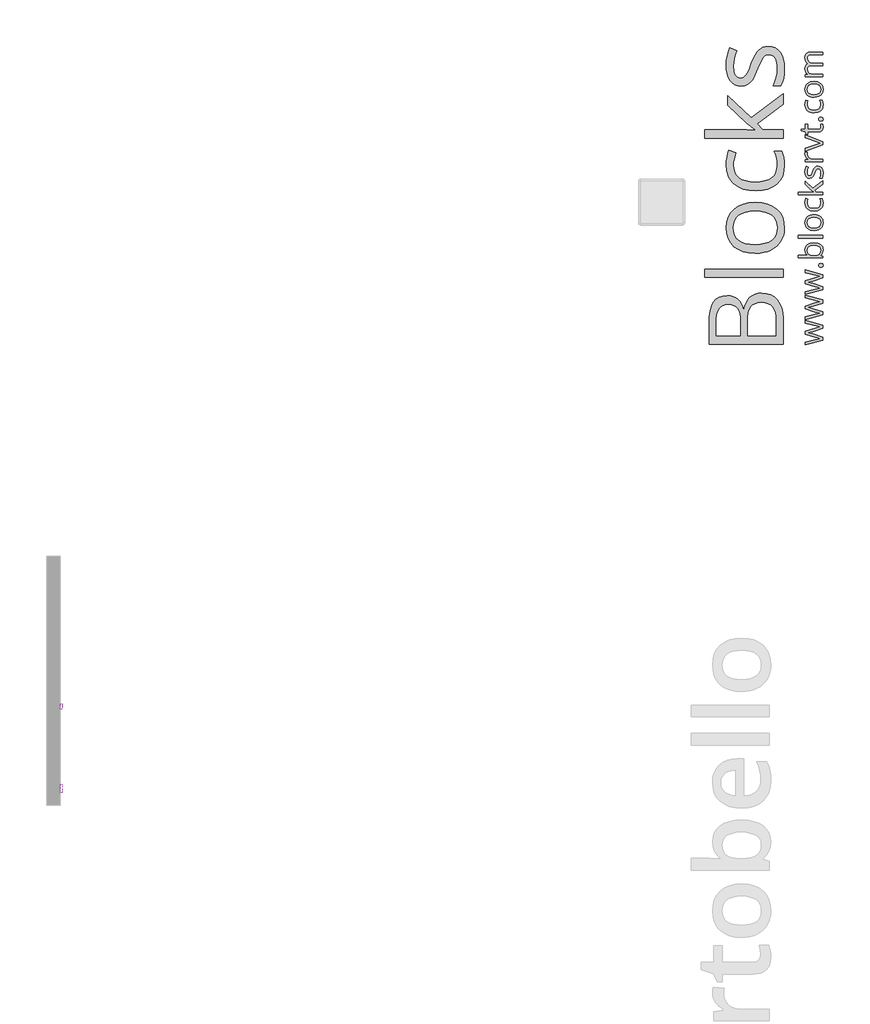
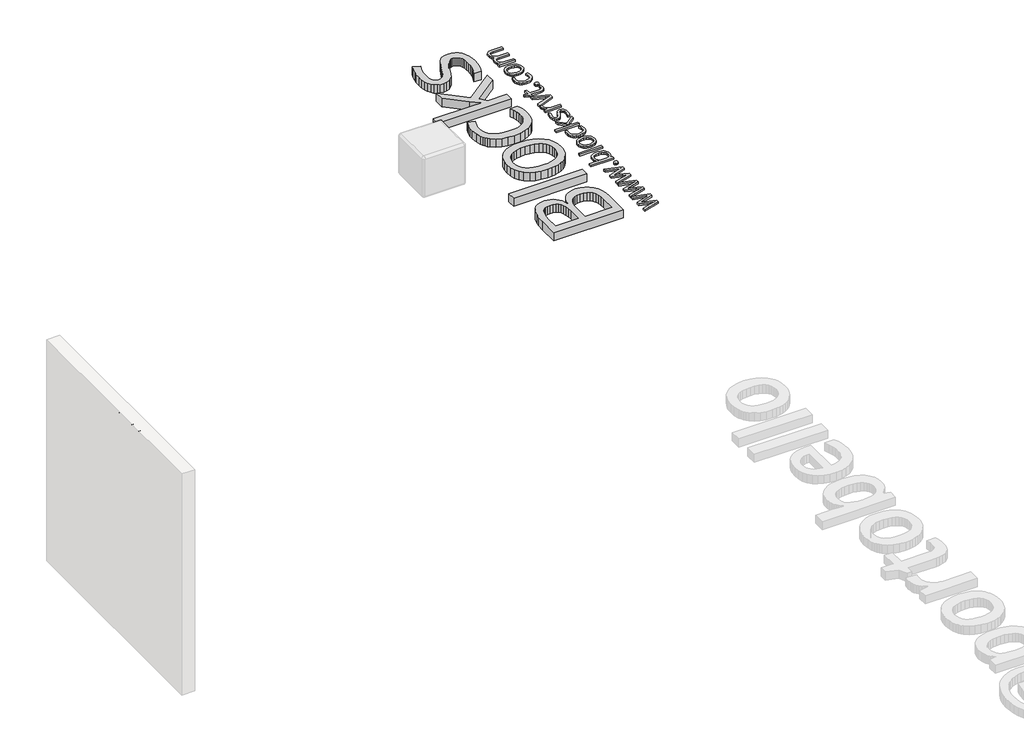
# One storey, part 3 of 3: 4 proxies.
"""IFC4 building model written with IfcOpenShell, lengths in millimetres."""

from ifc_helpers import new_model, si_unit, frame, origin, origin_with_axes, place, context, project, spatial, polyline, outline, extrude, element, save

model = new_model("IFC4")

# Units and contexts
model_context = context("Model", 3, world=origin())
ifc_project = project(units=[si_unit("LENGTHUNIT", "METRE", prefix="MILLI")], contexts=[model_context])

# Site, building, storey
site = spatial("IfcSite", under=ifc_project)
building = spatial("IfcBuilding", under=site)
storey = spatial("IfcBuildingStorey", under=building, Name="PORTOBELLO - SHOWROOM", Elevation=0.0)

# Proxies
placement = place(None, origin())
element("IfcBuildingElementProxy", 1, Name="10mm Arial", ObjectType="10mm Arial", at=placement, inside=storey, context=model_context, shape_type="SweptSolid", body=[
    extrude(outline(polyline([(16374.0658223, 2478.2261649), (16334.0893122, 2578.6824751), (16347.5292677, 2578.6824751), (16374.2865515, 2506.3078239), (16379.7066796, 2489.9983888), (16385.0532312, 2506.3078239), (16411.8840914, 2578.6824751), (16425.324047, 2578.6824751), (16387.039794, 2478.2261649), (16374.0658223, 2478.2261649)])), frame((-18795.5594677, 0.0, 0.0), z_axis=(1.0, 0.0, 0.0), x_axis=(0.0, 1.0, 0.0)), (0.0, 0.0, 1.0), 20.0),
    extrude(outline(polyline([(16487.0791712, 2500.2009828), (16499.3909553, 2498.6313529), (16494.9549116, 2489.3545953), (16487.8762489, 2482.4200197), (16478.3143827, 2478.0974062), (16466.4287286, 2476.6565351), (16451.6950547, 2479.1428042), (16440.3581579, 2486.6016117), (16433.1292766, 2498.5485795), (16430.7196496, 2514.4993297), (16433.1538021, 2530.9865744), (16440.4562597, 2543.3167526), (16451.6398724, 2551.0054863), (16465.7174901, 2553.5683975), (16479.356715, 2551.0116177), (16490.2552191, 2543.3412781), (16497.4013269, 2531.0356253), (16499.7833628, 2514.5729061), (16499.7097864, 2511.1883917), (16443.2766883, 2511.1883917), (16445.4502578, 2501.7890067), (16450.4994382, 2494.8789566), (16457.7865674, 2490.6299195), (16466.6739832, 2489.2135739), (16478.9857673, 2491.8377988), (16487.0791712, 2500.2009828)]), holes=[polyline([(16443.2766883, 2523.7454305), (16487.226324, 2523.7454305), (16482.1986034, 2535.1252469), (16474.8777517, 2539.5398308), (16465.6684391, 2541.0113588), (16450.2051326, 2536.314732), (16445.3398932, 2530.8240932), (16443.2766883, 2523.7454305)])]), frame((-18795.5594677, 0.0, 0.0), z_axis=(1.0, 0.0, 0.0), x_axis=(0.0, 1.0, 0.0)), (0.0, 0.0, 1.0), 20.0),
    extrude(outline(polyline([(16557.8596671, 2478.2261649), (16557.8596671, 2490.0719652), (16549.5516654, 2480.0103926), (16538.0676158, 2476.6565351), (16522.5184701, 2481.5125774), (16511.5310612, 2495.0628976), (16507.631512, 2515.0388899), (16511.2244929, 2535.027145), (16521.9911726, 2548.7859316), (16538.0185648, 2553.5683975), (16549.594585, 2550.147095), (16557.8596671, 2541.2566134), (16557.8596671, 2578.6824751), (16570.4167059, 2578.6824751), (16570.4167059, 2478.2261649), (16557.8596671, 2478.2261649)]), holes=[polyline([(16520.1885508, 2515.0879408), (16521.6048965, 2503.7295842), (16525.8539335, 2495.6515088), (16532.0282197, 2490.8230576), (16539.2203127, 2489.2135739), (16546.40934, 2490.7494812), (16552.4272763, 2495.3572032), (16556.5015694, 2503.122579), (16557.8596671, 2514.1314477), (16556.4770439, 2526.1673203), (16552.3291745, 2534.5121102), (16546.157954, 2539.3865466), (16538.7052779, 2541.0113588), (16531.4396085, 2539.450926), (16525.4860515, 2534.7696276), (16521.512926, 2526.7283403), (16520.1885508, 2515.0879408)])]), frame((-18795.5594677, 0.0, 0.0), z_axis=(1.0, 0.0, 0.0), x_axis=(0.0, 1.0, 0.0)), (0.0, 0.0, 1.0), 20.0),
    extrude(outline(polyline([(16586.1130043, 2515.1124663), (16588.8291997, 2532.8995608), (16596.9777859, 2545.4014173), (16607.0454899, 2551.5266525), (16619.0997566, 2553.5683975), (16632.2913918, 2551.0821284), (16642.8281453, 2543.6233209), (16649.7351297, 2531.7805864), (16652.0374579, 2516.1425359), (16647.9662305, 2493.7998361), (16636.1081675, 2481.1569582), (16619.0997566, 2476.6565351), (16605.7487058, 2479.1336072), (16595.2242151, 2486.5648235), (16588.390807, 2498.6558784), (16586.1130043, 2515.1124663)]), holes=[polyline([(16598.6700431, 2515.1369918), (16600.123177, 2503.7725038), (16604.4825786, 2495.6760342), (16611.0431409, 2490.829189), (16619.0997566, 2489.2135739), (16627.1195841, 2490.838386), (16633.6678836, 2495.7128224), (16638.0272852, 2503.9165909), (16639.4804191, 2515.5293992), (16638.0180882, 2526.5627934), (16633.6310954, 2534.5488984), (16627.0735988, 2539.3957437), (16619.0997566, 2541.0113588), (16611.0431409, 2539.401875), (16604.4825786, 2534.5734239), (16600.123177, 2526.4953484), (16598.6700431, 2515.1369918)])]), frame((-18795.5594677, 0.0, 0.0), z_axis=(1.0, 0.0, 0.0), x_axis=(0.0, 1.0, 0.0)), (0.0, 0.0, 1.0), 20.0),
    extrude(outline(polyline([(16666.1641265, 2478.2261649), (16666.1641265, 2551.9987677), (16678.7211653, 2551.9987677), (16678.7211653, 2541.6980718), (16688.3228853, 2550.6008161), (16701.4317471, 2553.5683975), (16713.2898101, 2551.1771646), (16721.383214, 2544.8986452), (16725.1478731, 2535.6648071), (16725.8100606, 2523.5247013), (16725.8100606, 2478.2261649), (16713.2530219, 2478.2261649), (16713.2530219, 2521.8324441), (16711.8060194, 2532.9424803), (16706.6924596, 2538.8163295), (16698.0717582, 2541.0113588), (16684.4478617, 2536.08174), (16680.1528394, 2528.938698), (16678.7211653, 2517.3688092), (16678.7211653, 2478.2261649), (16666.1641265, 2478.2261649)])), frame((-18795.5594677, 0.0, 0.0), z_axis=(1.0, 0.0, 0.0), x_axis=(0.0, 1.0, 0.0)), (0.0, 0.0, 1.0), 20.0),
    extrude(outline(polyline([(16739.9367293, 2515.1124663), (16742.6529247, 2532.8995608), (16750.8015108, 2545.4014173), (16760.8692148, 2551.5266525), (16772.9234815, 2553.5683975), (16786.1151167, 2551.0821284), (16796.6518702, 2543.6233209), (16803.5588546, 2531.7805864), (16805.8611828, 2516.1425359), (16801.7899554, 2493.7998361), (16789.9318924, 2481.1569582), (16772.9234815, 2476.6565351), (16759.5724308, 2479.1336072), (16749.04794, 2486.5648235), (16742.2145319, 2498.6558784), (16739.9367293, 2515.1124663)]), holes=[polyline([(16752.493768, 2515.1369918), (16753.9469019, 2503.7725038), (16758.3063035, 2495.6760342), (16764.8668658, 2490.829189), (16772.9234815, 2489.2135739), (16780.943309, 2490.838386), (16787.4916085, 2495.7128224), (16791.8510101, 2503.9165909), (16793.304144, 2515.5293992), (16791.8418131, 2526.5627934), (16787.4548203, 2534.5488984), (16780.8973237, 2539.3957437), (16772.9234815, 2541.0113588), (16764.8668658, 2539.401875), (16758.3063035, 2534.5734239), (16753.9469019, 2526.4953484), (16752.493768, 2515.1369918)])]), frame((-18795.5594677, 0.0, 0.0), z_axis=(1.0, 0.0, 0.0), x_axis=(0.0, 1.0, 0.0)), (0.0, 0.0, 1.0), 20.0),
    extrude(outline(polyline([(16819.9878514, 2478.2261649), (16819.9878514, 2551.9987677), (16832.5448902, 2551.9987677), (16832.5448902, 2541.6980718), (16842.1466103, 2550.6008161), (16855.255472, 2553.5683975), (16867.113535, 2551.1771646), (16875.2069389, 2544.8986452), (16878.971598, 2535.6648071), (16879.6337856, 2523.5247013), (16879.6337856, 2478.2261649), (16867.0767468, 2478.2261649), (16867.0767468, 2521.8324441), (16865.6297443, 2532.9424803), (16860.5161845, 2538.8163295), (16851.8954831, 2541.0113588), (16838.2715866, 2536.08174), (16833.9765643, 2528.938698), (16832.5448902, 2517.3688092), (16832.5448902, 2478.2261649), (16819.9878514, 2478.2261649)])), frame((-18795.5594677, 0.0, 0.0), z_axis=(1.0, 0.0, 0.0), x_axis=(0.0, 1.0, 0.0)), (0.0, 0.0, 1.0), 20.0),
    extrude(outline(polyline([(16914.999508, 2478.2261649), (16889.0515646, 2551.9987677), (16902.3443674, 2551.9987677), (16918.0651913, 2507.8038773), (16922.7986063, 2492.9414447), (16927.4339195, 2506.9700115), (16943.2528453, 2551.9987677), (16956.545648, 2551.9987677), (16930.9165357, 2478.2261649), (16914.999508, 2478.2261649)])), frame((-18795.5594677, 0.0, 0.0), z_axis=(1.0, 0.0, 0.0), x_axis=(0.0, 1.0, 0.0)), (0.0, 0.0, 1.0), 20.0),
    extrude(outline(polyline([(17019.1836891, 2500.2009828), (17031.4954732, 2498.6313529), (17027.0594294, 2489.3545953), (17019.9807667, 2482.4200197), (17010.4189005, 2478.0974062), (16998.5332464, 2476.6565351), (16983.7995725, 2479.1428042), (16972.4626757, 2486.6016117), (16965.2337945, 2498.5485795), (16962.8241674, 2514.4993297), (16965.2583199, 2530.9865744), (16972.5607775, 2543.3167526), (16983.7443902, 2551.0054863), (16997.8220079, 2553.5683975), (17011.4612328, 2551.0116177), (17022.359737, 2543.3412781), (17029.5058447, 2531.0356253), (17031.8878806, 2514.5729061), (17031.8143042, 2511.1883917), (16975.3812062, 2511.1883917), (16977.5547756, 2501.7890067), (16982.603956, 2494.8789566), (16989.8910852, 2490.6299195), (16998.7785011, 2489.2135739), (17011.0902852, 2491.8377988), (17019.1836891, 2500.2009828)]), holes=[polyline([(16975.3812062, 2523.7454305), (17019.3308419, 2523.7454305), (17014.3031213, 2535.1252469), (17006.9822696, 2539.5398308), (16997.7729569, 2541.0113588), (16982.3096504, 2536.314732), (16977.444411, 2530.8240932), (16975.3812062, 2523.7454305)])]), frame((-18795.5594677, 0.0, 0.0), z_axis=(1.0, 0.0, 0.0), x_axis=(0.0, 1.0, 0.0)), (0.0, 0.0, 1.0), 20.0),
    extrude(outline(polyline([(17089.9641849, 2478.2261649), (17089.9641849, 2490.0719652), (17081.6561832, 2480.0103926), (17070.1721336, 2476.6565351), (17054.6229879, 2481.5125774), (17043.635579, 2495.0628976), (17039.7360299, 2515.0388899), (17043.3290107, 2535.027145), (17054.0956904, 2548.7859316), (17070.1230827, 2553.5683975), (17081.6991028, 2550.147095), (17089.9641849, 2541.2566134), (17089.9641849, 2578.6824751), (17102.5212237, 2578.6824751), (17102.5212237, 2478.2261649), (17089.9641849, 2478.2261649)]), holes=[polyline([(17052.2930686, 2515.0879408), (17053.7094143, 2503.7295842), (17057.9584514, 2495.6515088), (17064.1327375, 2490.8230576), (17071.3248305, 2489.2135739), (17078.5138578, 2490.7494812), (17084.5317941, 2495.3572032), (17088.6060872, 2503.122579), (17089.9641849, 2514.1314477), (17088.5815618, 2526.1673203), (17084.4336923, 2534.5121102), (17078.2624718, 2539.3865466), (17070.8097957, 2541.0113588), (17063.5441263, 2539.450926), (17057.5905694, 2534.7696276), (17053.6174438, 2526.7283403), (17052.2930686, 2515.0879408)])]), frame((-18795.5594677, 0.0, 0.0), z_axis=(1.0, 0.0, 0.0), x_axis=(0.0, 1.0, 0.0)), (0.0, 0.0, 1.0), 20.0),
    extrude(outline(polyline([(17118.2175222, 2515.1124663), (17120.9337176, 2532.8995608), (17129.0823038, 2545.4014173), (17139.1500077, 2551.5266525), (17151.2042744, 2553.5683975), (17164.3959096, 2551.0821284), (17174.9326631, 2543.6233209), (17181.8396475, 2531.7805864), (17184.1419757, 2516.1425359), (17180.0707483, 2493.7998361), (17168.2126853, 2481.1569582), (17151.2042744, 2476.6565351), (17137.8532237, 2479.1336072), (17127.3287329, 2486.5648235), (17120.4953249, 2498.6558784), (17118.2175222, 2515.1124663)]), holes=[polyline([(17130.7745609, 2515.1369918), (17132.2276948, 2503.7725038), (17136.5870965, 2495.6760342), (17143.1476587, 2490.829189), (17151.2042744, 2489.2135739), (17159.2241019, 2490.838386), (17165.7724014, 2495.7128224), (17170.1318031, 2503.9165909), (17171.5849369, 2515.5293992), (17170.122606, 2526.5627934), (17165.7356132, 2534.5488984), (17159.1781166, 2539.3957437), (17151.2042744, 2541.0113588), (17143.1476587, 2539.401875), (17136.5870965, 2534.5734239), (17132.2276948, 2526.4953484), (17130.7745609, 2515.1369918)])]), frame((-18795.5594677, 0.0, 0.0), z_axis=(1.0, 0.0, 0.0), x_axis=(0.0, 1.0, 0.0)), (0.0, 0.0, 1.0), 20.0),
])
element("IfcBuildingElementProxy", 2, Name="10mm Arial Narrow", ObjectType="10mm Arial Narrow", at=placement, inside=storey, context=model_context, shape_type="SweptSolid", body=[
    extrude(outline(polyline([(17236.5250672, 2478.2261649), (17236.5250672, 2578.9447687), (17267.8219518, 2578.9447687), (17284.1176534, 2577.066448), (17295.5906395, 2567.5860048), (17299.8803179, 2550.566896), (17298.0940095, 2538.4910704), (17292.7350843, 2528.8646766), (17282.9912955, 2522.5634182), (17268.0503963, 2520.4629988), (17246.2720288, 2520.4629988), (17246.2720288, 2478.2261649), (17236.5250672, 2478.2261649)]), holes=[polyline([(17246.2720288, 2531.834454), (17269.2433838, 2531.834454), (17285.1075792, 2536.3652682), (17290.1333563, 2550.033859), (17287.6585418, 2560.1996354), (17281.680913, 2565.9995852), (17269.0149393, 2567.5733134), (17246.2720288, 2567.5733134), (17246.2720288, 2531.834454)])]), frame((-18795.5594677, 0.0, 0.0), z_axis=(1.0, 0.0, 0.0), x_axis=(0.0, 1.0, 0.0)), (0.0, 0.0, 1.0), 20.0),
    extrude(outline(polyline([(17308.002786, 2514.7772711), (17309.9572548, 2531.3680467), (17315.8206615, 2543.3201315), (17324.6792282, 2550.5446861), (17335.6191773, 2552.9528709), (17346.4322129, 2550.5446861), (17355.3161623, 2543.3201315), (17361.2557171, 2531.558417), (17363.2355687, 2515.5387525), (17361.2906183, 2498.3768659), (17355.4557672, 2486.2344108), (17346.606719, 2479.0098562), (17335.6191773, 2476.6016713), (17324.7585491, 2479.0162019), (17315.8841182, 2486.2597935), (17309.973119, 2498.218224), (17308.002786, 2514.7772711)]), holes=[polyline([(17317.7497476, 2514.8026538), (17319.0537845, 2502.2509024), (17322.9658951, 2493.3796444), (17328.8070918, 2488.1063858), (17335.8983871, 2486.348633), (17342.6184603, 2488.12225), (17348.3105336, 2493.4431012), (17352.1940887, 2502.3302234), (17353.488607, 2514.8026538), (17352.1845701, 2527.3163312), (17348.2724596, 2536.1748979), (17342.4312628, 2541.4481564), (17335.3399675, 2543.2059093), (17328.5723017, 2541.4386379), (17322.8897469, 2536.1368238), (17319.0347474, 2527.2687386), (17317.7497476, 2514.8026538)])]), frame((-18795.5594677, 0.0, 0.0), z_axis=(1.0, 0.0, 0.0), x_axis=(0.0, 1.0, 0.0)), (0.0, 0.0, 1.0), 20.0),
    extrude(outline(polyline([(17434.7132875, 2486.348633), (17436.3377811, 2476.6016713), (17428.9767944, 2476.6016713), (17420.7020301, 2478.7211278), (17416.3869689, 2484.5210777), (17415.2193641, 2499.1669029), (17415.2193641, 2541.5814157), (17407.0968961, 2541.5814157), (17407.0968961, 2544.8304029), (17405.4724025, 2539.9569221), (17397.9083541, 2541.5814157), (17391.8291944, 2539.2588975), (17387.9583308, 2532.7736144), (17385.9784792, 2517.3663078), (17385.9784792, 2478.2261649), (17376.2315175, 2478.2261649), (17376.2315175, 2551.3283773), (17385.9784792, 2551.3283773), (17385.9784792, 2541.6321811), (17392.2226265, 2550.7191922), (17398.6190701, 2552.9528709), (17407.0968961, 2551.3283773), (17415.2193641, 2551.3283773), (17415.2193641, 2567.5733134), (17424.9663258, 2575.6957815), (17424.9663258, 2551.3283773), (17434.7132875, 2551.3283773), (17434.7132875, 2541.5814157), (17424.9663258, 2541.5814157), (17424.9663258, 2496.9332241), (17425.829338, 2488.9376697), (17430.4489917, 2486.348633), (17434.7132875, 2486.348633)])), frame((-18795.5594677, 0.0, 0.0), z_axis=(1.0, 0.0, 0.0), x_axis=(0.0, 1.0, 0.0)), (0.0, 0.0, 1.0), 20.0),
    extrude(outline(polyline([(17441.2112619, 2514.7772711), (17443.1657308, 2531.3680467), (17449.0291374, 2543.3201315), (17457.8877041, 2550.5446861), (17468.8276532, 2552.9528709), (17479.6406888, 2550.5446861), (17488.5246382, 2543.3201315), (17494.464193, 2531.558417), (17496.4440446, 2515.5387525), (17494.4990942, 2498.3768659), (17488.6642432, 2486.2344108), (17479.815195, 2479.0098562), (17468.8276532, 2476.6016713), (17457.9670251, 2479.0162019), (17449.0925942, 2486.2597935), (17443.181595, 2498.218224), (17441.2112619, 2514.7772711)]), holes=[polyline([(17450.9582235, 2514.8026538), (17452.2622604, 2502.2509024), (17456.174371, 2493.3796444), (17462.0155677, 2488.1063858), (17469.1068631, 2486.348633), (17475.8269363, 2488.12225), (17481.5190096, 2493.4431012), (17485.4025646, 2502.3302234), (17486.6970829, 2514.8026538), (17485.3930461, 2527.3163312), (17481.4809355, 2536.1748979), (17475.6397387, 2541.4481564), (17468.5484434, 2543.2059093), (17461.7807776, 2541.4386379), (17456.0982229, 2536.1368238), (17452.2432234, 2527.2687386), (17450.9582235, 2514.8026538)])]), frame((-18795.5594677, 0.0, 0.0), z_axis=(1.0, 0.0, 0.0), x_axis=(0.0, 1.0, 0.0)), (0.0, 0.0, 1.0), 20.0),
    extrude(outline(polyline([(17519.1869551, 2478.2261649), (17509.4399935, 2478.2261649), (17509.4399935, 2578.9447687), (17519.1869551, 2578.9447687), (17519.1869551, 2543.5358846), (17526.5860159, 2550.6176614), (17535.7872492, 2552.9528709), (17548.6689758, 2548.752032), (17557.9463573, 2536.0226016), (17561.4237889, 2515.3356908), (17559.4915299, 2498.8813473), (17553.694753, 2486.6786082), (17545.3216306, 2479.1209056), (17535.6603356, 2476.6016713), (17526.3194974, 2479.2160907), (17519.1869551, 2486.9832008), (17519.1869551, 2478.2261649)]), holes=[polyline([(17519.1869551, 2515.3356908), (17521.2683376, 2498.0881376), (17527.1571269, 2489.3564844), (17535.6095702, 2486.348633), (17541.5522978, 2488.1381142), (17546.7906551, 2493.5065579), (17551.6768273, 2514.9295674), (17546.9683341, 2536.3652682), (17541.7236311, 2541.495749), (17535.4065085, 2543.2059093), (17529.4288797, 2541.416428), (17524.1365841, 2536.0479843), (17519.1869551, 2515.3356908)])]), frame((-18795.5594677, 0.0, 0.0), z_axis=(1.0, 0.0, 0.0), x_axis=(0.0, 1.0, 0.0)), (0.0, 0.0, 1.0), 20.0),
    extrude(outline(polyline([(17613.4075844, 2500.9690755), (17623.1545461, 2499.3445818), (17619.4550157, 2489.4580153), (17613.6360288, 2482.3381644), (17605.9323756, 2478.0357946), (17596.578846, 2476.6016713), (17584.985292, 2479.0162019), (17575.8411697, 2486.2597935), (17569.901615, 2498.0659277), (17567.9217634, 2514.168086), (17569.9111335, 2530.8350097), (17575.8792438, 2543.0155389), (17584.8932796, 2550.4685379), (17596.0204263, 2552.9528709), (17606.7033755, 2550.5542046), (17615.4508928, 2543.3582056), (17621.2857439, 2531.618701), (17623.2306942, 2515.5895179), (17623.1545461, 2512.3405307), (17577.668725, 2512.3405307), (17583.6717366, 2492.8973728), (17589.6017728, 2487.9858179), (17596.7057595, 2486.348633), (17606.8842273, 2490.0037436), (17613.4075844, 2500.9690755)]), holes=[polyline([(17578.3286756, 2522.0874924), (17613.4075844, 2522.0874924), (17609.1432887, 2536.3525769), (17603.3179562, 2541.4925762), (17596.0965744, 2543.2059093), (17583.8874896, 2537.4947989), (17578.3286756, 2522.0874924)])]), frame((-18795.5594677, 0.0, 0.0), z_axis=(1.0, 0.0, 0.0), x_axis=(0.0, 1.0, 0.0)), (0.0, 0.0, 1.0), 20.0),
    extrude(outline(polyline([(-18775.5594677, 17645.8974566), (-18775.5594677, 17636.150495), (-18795.5594677, 17636.150495), (-18795.5594677, 17645.8974566), (-18775.5594677, 17645.8974566)])), frame((0.0, 0.0, 2478.2261649), z_axis=(0.0, 0.0, 1.0), x_axis=(1.0, 0.0, 0.0)), (0.0, 0.0, 1.0), 100.7186038),
    extrude(outline(polyline([(-18775.5594677, 17671.8893544), (-18775.5594677, 17662.1423927), (-18795.5594677, 17662.1423927), (-18795.5594677, 17671.8893544), (-18775.5594677, 17671.8893544)])), frame((0.0, 0.0, 2478.2261649), z_axis=(0.0, 0.0, 1.0), x_axis=(1.0, 0.0, 0.0)), (0.0, 0.0, 1.0), 100.7186038),
    extrude(outline(polyline([(17683.2608096, 2514.7772711), (17685.2152785, 2531.3680467), (17691.0786851, 2543.3201315), (17699.9372518, 2550.5446861), (17710.877201, 2552.9528709), (17721.6902366, 2550.5446861), (17730.574186, 2543.3201315), (17736.5137407, 2531.558417), (17738.4935923, 2515.5387525), (17736.548642, 2498.3768659), (17730.7137909, 2486.2344108), (17721.8647427, 2479.0098562), (17710.877201, 2476.6016713), (17700.0165728, 2479.0162019), (17691.1421419, 2486.2597935), (17685.2311427, 2498.218224), (17683.2608096, 2514.7772711)]), holes=[polyline([(17693.0077713, 2514.8026538), (17694.3118081, 2502.2509024), (17698.2239187, 2493.3796444), (17704.0651155, 2488.1063858), (17711.1564108, 2486.348633), (17717.876484, 2488.12225), (17723.5685573, 2493.4431012), (17727.4521123, 2502.3302234), (17728.7466307, 2514.8026538), (17727.4425938, 2527.3163312), (17723.5304832, 2536.1748979), (17717.6892865, 2541.4481564), (17710.5979911, 2543.2059093), (17703.8303254, 2541.4386379), (17698.1477706, 2536.1368238), (17694.2927711, 2527.2687386), (17693.0077713, 2514.8026538)])]), frame((-18795.5594677, 0.0, 0.0), z_axis=(1.0, 0.0, 0.0), x_axis=(0.0, 1.0, 0.0)), (0.0, 0.0, 1.0), 20.0),
])
element("IfcBuildingElementProxy", 3, Name="25mm OpenSans", ObjectType="25mm OpenSans", at=placement, inside=storey, context=model_context, shape_type="SweptSolid", body=[
    extrude(outline(polyline([(-10540.5231483, 21363.3703802), (-10650.3347916, 21328.8902738), (-10696.058411, 21316.672323), (-10649.9600078, 21303.2550642), (-10540.5231483, 21267.7255632), (-10540.5231483, 21234.8195486), (-10727.6152041, 21183.4741727), (-10727.6152041, 21213.3069605), (-10620.2771336, 21241.0409591), (-10570.5808063, 21251.9846451), (-10595.7662753, 21259.4053636), (-10620.2771336, 21266.7511254), (-10727.6152041, 21301.2312319), (-10727.6152041, 21332.1134142), (-10620.2021768, 21365.7689963), (-10570.8806333, 21378.8114714), (-10589.8446918, 21383.9085306), (-10727.6152041, 21419.6629018), (-10727.6152041, 21449.1958626), (-10540.5231483, 21397.1758759), (-10540.5231483, 21363.3703802)])), origin_with_axes(), (0.0, 0.0, 1.0), 20.0),
    extrude(outline(polyline([(-10540.5231483, 21636.8126157), (-10650.3347916, 21602.3325092), (-10696.058411, 21590.1145585), (-10649.9600078, 21576.6972996), (-10540.5231483, 21541.1677987), (-10540.5231483, 21508.261784), (-10727.6152041, 21456.9164081), (-10727.6152041, 21486.7491959), (-10620.2771336, 21514.4831945), (-10570.5808063, 21525.4268805), (-10595.7662753, 21532.8475991), (-10620.2771336, 21540.1933609), (-10727.6152041, 21574.6734673), (-10727.6152041, 21605.5556496), (-10620.2021768, 21639.2112318), (-10570.8806333, 21652.2537068), (-10589.8446918, 21657.350766), (-10727.6152041, 21693.1051373), (-10727.6152041, 21722.638098), (-10540.5231483, 21670.6181113), (-10540.5231483, 21636.8126157)])), origin_with_axes(), (0.0, 0.0, 1.0), 20.0),
    extrude(outline(polyline([(-10540.5231483, 21910.2548511), (-10650.3347916, 21875.7747446), (-10696.058411, 21863.5567939), (-10649.9600078, 21850.1395351), (-10540.5231483, 21814.6100341), (-10540.5231483, 21781.7040195), (-10727.6152041, 21730.3586436), (-10727.6152041, 21760.1914313), (-10620.2771336, 21787.92543), (-10570.5808063, 21798.8691159), (-10595.7662753, 21806.2898345), (-10620.2771336, 21813.6355963), (-10727.6152041, 21848.1157027), (-10727.6152041, 21878.997885), (-10620.2021768, 21912.6534672), (-10570.8806333, 21925.6959422), (-10589.8446918, 21930.7930014), (-10727.6152041, 21966.5473727), (-10727.6152041, 21996.0803334), (-10540.5231483, 21944.0603467), (-10540.5231483, 21910.2548511)])), origin_with_axes(), (0.0, 0.0, 1.0), 20.0),
    extrude(outline(polyline([(-10559.6371203, 22025.2385104), (-10570.0467394, 22026.540884), (-10577.5892627, 22030.4480047), (-10582.1709942, 22036.79122), (-10583.6982381, 22045.401877), (-10582.1709942, 22054.265513), (-10577.5892627, 22060.9179249), (-10570.0467394, 22065.0780247), (-10559.6371203, 22066.4647246), (-10549.4336323, 22065.0499159), (-10541.9098482, 22060.8054897), (-10537.2718991, 22054.1249691), (-10535.7259161, 22045.401877), (-10541.3101942, 22030.972702), (-10548.6840648, 22026.6720583), (-10559.6371203, 22025.2385104)])), origin_with_axes(), (0.0, 0.0, 1.0), 20.0),
    extrude(outline(polyline([(-10732.4124363, 22213.604831), (-10730.8125781, 22231.1892168), (-10726.0130035, 22246.6888679), (-10718.0137125, 22260.1037843), (-10706.8147051, 22271.433966), (-10692.6923843, 22280.4358036), (-10675.9231532, 22286.8656876), (-10634.4439599, 22292.0095948), (-10592.8242228, 22286.8188396), (-10575.9355293, 22280.3303957), (-10561.6609526, 22271.2465742), (-10550.3143741, 22259.8625173), (-10542.2096752, 22246.4733672), (-10537.3468558, 22231.0791241), (-10535.7259161, 22213.6797877), (-10537.4405518, 22196.036842), (-10542.584459, 22179.9867272), (-10551.2888119, 22165.979184), (-10563.684785, 22154.4639528), (-10563.684785, 22152.3651637), (-10540.5231483, 22146.3686234), (-10540.5231483, 22126.0553433), (-10804.3709193, 22126.0553433), (-10804.3709193, 22154.388996), (-10741.7820304, 22154.388996), (-10704.0038268, 22153.0397745), (-10716.4325935, 22165.5950306), (-10725.3102839, 22179.1996813), (-10730.6368982, 22195.2029481), (-10732.4124363, 22213.604831)]), holes=[polyline([(-10708.4262753, 22209.6321231), (-10704.1912187, 22184.3623277), (-10691.4860491, 22167.3190359), (-10668.7554137, 22157.621506), (-10634.4439599, 22154.388996), (-10599.9919623, 22157.7152019), (-10576.9896087, 22167.6938197), (-10564.03146, 22184.9994601), (-10559.7120771, 22210.3067339), (-10564.5561572, 22233.3840442), (-10579.0883977, 22249.6965076), (-10602.6904054, 22259.3940376), (-10634.7437869, 22262.6265475), (-10667.1906915, 22259.3940376), (-10690.1743059, 22249.6965076), (-10703.8632829, 22233.2153915), (-10708.4262753, 22209.6321231)])]), origin_with_axes(), (0.0, 0.0, 1.0), 20.0),
    extrude(outline(polyline([(-10540.5231483, 22369.2900072), (-10540.5231483, 22340.9563546), (-10804.3709193, 22340.9563546), (-10804.3709193, 22369.2900072), (-10540.5231483, 22369.2900072)])), origin_with_axes(), (0.0, 0.0, 1.0), 20.0),
    extrude(outline(polyline([(-10634.2190897, 22594.2352234), (-10612.291897, 22592.7946483), (-10592.9085491, 22588.472923), (-10576.069046, 22581.2700475), (-10561.7733878, 22571.1860218), (-10550.3776189, 22558.5675209), (-10542.237784, 22543.7612198), (-10537.353883, 22526.7671184), (-10535.7259161, 22507.5852168), (-10538.7148166, 22483.8895132), (-10547.6815182, 22463.023427), (-10562.2324979, 22445.7927434), (-10581.9742327, 22433.0032474), (-10606.2040032, 22425.0765708), (-10634.2190897, 22422.4343452), (-10656.1369128, 22423.8632083), (-10675.4921519, 22428.1497976), (-10692.284807, 22435.2941132), (-10706.5148781, 22445.2961549), (-10717.8450598, 22457.8373567), (-10725.9380467, 22472.5991523), (-10730.7938389, 22489.5815416), (-10732.4124363, 22508.7845248), (-10730.7563605, 22527.3808268), (-10725.7881332, 22543.9673508), (-10717.5077544, 22558.5440969), (-10705.915224, 22571.1110651), (-10691.4977611, 22581.2278843), (-10674.7425843, 22588.4541838), (-10655.6496939, 22592.7899635), (-10634.2190897, 22594.2352234)]), holes=[polyline([(-10634.4439599, 22451.8923492), (-10602.2875128, 22455.4715342), (-10578.8260491, 22466.209089), (-10564.4905701, 22483.8801436), (-10559.7120771, 22508.2598276), (-10564.4718309, 22532.6582507), (-10578.7510924, 22550.3855228), (-10602.1938169, 22561.1792953), (-10634.4439599, 22564.7772194), (-10666.3661672, 22561.1792953), (-10689.5746519, 22550.3855228), (-10703.7133694, 22532.5645548), (-10708.4262753, 22507.8850438), (-10703.7789566, 22483.5522078), (-10689.8370005, 22466.0216972), (-10666.694103, 22455.4246862), (-10634.4439599, 22451.8923492)])]), origin_with_axes(), (0.0, 0.0, 1.0), 20.0),
    extrude(outline(polyline([(-10535.7259161, 22719.6378714), (-10537.3117199, 22700.2943443), (-10542.0691313, 22683.2651069), (-10549.9981503, 22668.5501593), (-10561.098777, 22656.1495015), (-10575.099293, 22646.3114276), (-10591.7279802, 22639.284232), (-10632.8698681, 22633.6624755), (-10655.3170733, 22635.0889963), (-10675.0611505, 22639.3685584), (-10692.1020999, 22646.5011619), (-10706.4399213, 22656.4868069), (-10717.8028966, 22669.1099926), (-10725.9193075, 22684.1552184), (-10730.7891541, 22701.6224842), (-10732.4124363, 22721.5117902), (-10729.6390364, 22748.75857), (-10723.1177989, 22770.0837662), (-10699.6563352, 22761.3138261), (-10705.915224, 22740.5882839), (-10708.4262753, 22720.7622227), (-10703.7367934, 22695.54396), (-10689.6683478, 22677.5309153), (-10666.2209385, 22666.7230885), (-10633.3945654, 22663.1204795), (-10601.9314683, 22666.6340773), (-10578.7510924, 22677.1748707), (-10564.4718309, 22694.6116854), (-10559.7120771, 22718.8133471), (-10562.2418675, 22742.7807689), (-10569.8312387, 22767.3103664), (-10545.1704669, 22767.3103664), (-10538.0870538, 22745.9102134), (-10535.7259161, 22719.6378714)])), origin_with_axes(), (0.0, 0.0, 1.0), 20.0),
    extrude(outline(polyline([(-10634.3690032, 22838.8940656), (-10662.2529153, 22861.7558753), (-10727.6152041, 22921.7212778), (-10727.6152041, 22955.077033), (-10647.8612187, 22879.8204528), (-10540.5231483, 22960.3240057), (-10540.5231483, 22926.218683), (-10626.8733279, 22860.631524), (-10608.8837071, 22839.6436331), (-10540.5231483, 22839.6436331), (-10540.5231483, 22811.6098075), (-10804.3709193, 22811.6098075), (-10804.3709193, 22839.6436331), (-10663.3772666, 22839.6436331), (-10634.3690032, 22838.8940656)])), origin_with_axes(), (0.0, 0.0, 1.0), 20.0),
    extrude(outline(polyline([(-10590.9690431, 23120.5815439), (-10567.4794706, 23115.6812461), (-10550.0801343, 23100.9803529), (-10539.3144706, 23077.4345629), (-10535.7259161, 23045.9995745), (-10538.6867078, 23012.7000369), (-10547.569083, 22987.6082638), (-10574.1037737, 22987.6082638), (-10563.5723498, 23016.7664408), (-10559.7120771, 23046.749142), (-10561.4922999, 23066.5658337), (-10566.8329686, 23081.1917701), (-10575.827779, 23090.2146893), (-10588.570427, 23093.222329), (-10598.8582414, 23090.8330825), (-10607.5344856, 23083.665343), (-10626.1237603, 23046.449315), (-10643.3638135, 23009.0458952), (-10660.0416911, 22992.5179312), (-10682.4162819, 22987.0835666), (-10703.1418242, 22991.7683636), (-10718.9951775, 23005.8227548), (-10729.0581216, 23028.0474321), (-10732.4124363, 23057.2430875), (-10729.301731, 23087.2820063), (-10719.9696152, 23116.6837927), (-10696.8079785, 23106.4896743), (-10705.5217011, 23079.4302864), (-10708.4262753, 23055.0693416), (-10706.8240747, 23037.2483736), (-10702.0174729, 23024.4120296), (-10694.3812536, 23016.6540057), (-10684.2902008, 23014.0679977), (-10671.2852041, 23017.9282705), (-10661.0910857, 23030.4085699), (-10647.0366945, 23063.464498), (-10634.7063086, 23091.5451716), (-10622.3009659, 23108.7758553), (-10608.2465747, 23117.6301217), (-10590.9690431, 23120.5815439)])), origin_with_axes(), (0.0, 0.0, 1.0), 20.0),
    extrude(outline(polyline([(-10732.4124363, 23253.0301267), (-10730.5385174, 23275.6670661), (-10705.8777457, 23271.6943582), (-10708.4262753, 23251.0062943), (-10703.7321086, 23229.6717285), (-10689.6496086, 23211.6914773), (-10668.5586522, 23199.464157), (-10642.8391163, 23195.3883835), (-10540.5231483, 23195.3883835), (-10540.5231483, 23167.0547308), (-10727.6152041, 23167.0547308), (-10727.6152041, 23190.4412378), (-10694.0345787, 23193.6643782), (-10710.3564117, 23206.6506357), (-10722.4431881, 23220.4239391), (-10729.9201242, 23235.9962045), (-10732.4124363, 23253.0301267)])), origin_with_axes(), (0.0, 0.0, 1.0), 20.0),
    extrude(outline(polyline([(-10540.5231483, 23352.6476516), (-10727.6152041, 23280.6891686), (-10727.6152041, 23311.4963941), (-10616.6792094, 23352.3478246), (-10566.1583578, 23368.5384832), (-10603.6367344, 23381.9557421), (-10727.6152041, 23427.3795344), (-10727.6152041, 23458.18676), (-10540.5231483, 23386.228277), (-10540.5231483, 23352.6476516)])), origin_with_axes(), (0.0, 0.0, 1.0), 20.0),
    extrude(outline(polyline([(-10559.7120771, 23549.5590421), (-10560.8364284, 23564.2505657), (-10563.1600877, 23575.4940786), (-10540.9728888, 23575.4940786), (-10537.2250511, 23561.7769928), (-10535.7259161, 23545.5113774), (-10539.2863618, 23521.5064772), (-10549.9676991, 23504.3601199), (-10567.769928, 23494.0723055), (-10592.6930484, 23490.6430341), (-10703.6290431, 23490.6430341), (-10703.6290431, 23463.5086895), (-10717.6459559, 23463.5086895), (-10729.7889499, 23490.4931206), (-10770.7902939, 23502.5611578), (-10770.7902939, 23519.0516435), (-10727.6152041, 23519.0516435), (-10727.6152041, 23574.1448571), (-10703.6290431, 23574.1448571), (-10703.6290431, 23519.0516435), (-10594.4170538, 23519.0516435), (-10579.5849862, 23521.0848455), (-10568.6694091, 23527.1844512), (-10561.9514101, 23536.8445028), (-10559.7120771, 23549.5590421)])), origin_with_axes(), (0.0, 0.0, 1.0), 20.0),
    extrude(outline(polyline([(-10559.6371203, 23608.3251365), (-10570.0467394, 23609.6275101), (-10577.5892627, 23613.5346308), (-10582.1709942, 23619.8778461), (-10583.6982381, 23628.4885031), (-10582.1709942, 23637.3521392), (-10577.5892627, 23644.004551), (-10570.0467394, 23648.1646508), (-10559.6371203, 23649.5513507), (-10549.4336323, 23648.136542), (-10541.9098482, 23643.8921159), (-10537.2718991, 23637.2115952), (-10535.7259161, 23628.4885031), (-10541.3101942, 23614.0593281), (-10548.6840648, 23609.7586844), (-10559.6371203, 23608.3251365)])), origin_with_axes(), (0.0, 0.0, 1.0), 20.0),
    extrude(outline(polyline([(-10535.7259161, 23784.6234199), (-10537.3117199, 23765.2798928), (-10542.0691313, 23748.2506554), (-10549.9981503, 23733.5357078), (-10561.098777, 23721.13505), (-10575.099293, 23711.2969761), (-10591.7279802, 23704.2697805), (-10632.8698681, 23698.648024), (-10655.3170733, 23700.0745447), (-10675.0611505, 23704.3541069), (-10692.1020999, 23711.4867104), (-10706.4399213, 23721.4723554), (-10717.8028966, 23734.0955411), (-10725.9193075, 23749.1407669), (-10730.7891541, 23766.6080327), (-10732.4124363, 23786.4973387), (-10729.6390364, 23813.7441185), (-10723.1177989, 23835.0693147), (-10699.6563352, 23826.2993746), (-10705.915224, 23805.5738324), (-10708.4262753, 23785.7477712), (-10703.7367934, 23760.5295085), (-10689.6683478, 23742.5164638), (-10666.2209385, 23731.708637), (-10633.3945654, 23728.106028), (-10601.9314683, 23731.6196258), (-10578.7510924, 23742.1604192), (-10564.4718309, 23759.5972339), (-10559.7120771, 23783.7988956), (-10562.2418675, 23807.7663174), (-10569.8312387, 23832.2959149), (-10545.1704669, 23832.2959149), (-10538.0870538, 23810.8957618), (-10535.7259161, 23784.6234199)])), origin_with_axes(), (0.0, 0.0, 1.0), 20.0),
    extrude(outline(polyline([(-10634.2190897, 24038.2021157), (-10612.291897, 24036.7615406), (-10592.9085491, 24032.4398153), (-10576.069046, 24025.2369398), (-10561.7733878, 24015.1529141), (-10550.3776189, 24002.5344132), (-10542.237784, 23987.7281121), (-10537.353883, 23970.7340107), (-10535.7259161, 23951.5521091), (-10538.7148166, 23927.8564055), (-10547.6815182, 23906.9903194), (-10562.2324979, 23889.7596357), (-10581.9742327, 23876.9701397), (-10606.2040032, 23869.0434631), (-10634.2190897, 23866.4012375), (-10656.1369128, 23867.8301006), (-10675.4921519, 23872.11669), (-10692.284807, 23879.2610055), (-10706.5148781, 23889.2630472), (-10717.8450598, 23901.804249), (-10725.9380467, 23916.5660446), (-10730.7938389, 23933.548434), (-10732.4124363, 23952.7514171), (-10730.7563605, 23971.3477191), (-10725.7881332, 23987.9342431), (-10717.5077544, 24002.5109892), (-10705.915224, 24015.0779574), (-10691.4977611, 24025.1947766), (-10674.7425843, 24032.4210761), (-10655.6496939, 24036.7568558), (-10634.2190897, 24038.2021157)]), holes=[polyline([(-10634.4439599, 23895.8592415), (-10602.2875128, 23899.4384265), (-10578.8260491, 23910.1759814), (-10564.4905701, 23927.8470359), (-10559.7120771, 23952.2267199), (-10564.4718309, 23976.625143), (-10578.7510924, 23994.3524151), (-10602.1938169, 24005.1461876), (-10634.4439599, 24008.7441117), (-10666.3661672, 24005.1461876), (-10689.5746519, 23994.3524151), (-10703.7133694, 23976.5314471), (-10708.4262753, 23951.8519361), (-10703.7789566, 23927.5191001), (-10689.8370005, 23909.9885895), (-10666.694103, 23899.3915785), (-10634.4439599, 23895.8592415)])]), origin_with_axes(), (0.0, 0.0, 1.0), 20.0),
    extrude(outline(polyline([(-10540.5231483, 24327.2353558), (-10663.3023099, 24327.2353558), (-10683.0440447, 24324.8367397), (-10697.1452839, 24317.6408914), (-10705.6060274, 24305.3854623), (-10708.4262753, 24287.8081036), (-10704.5941113, 24264.7401629), (-10693.0976193, 24248.6057218), (-10673.6369722, 24239.1049533), (-10645.9123432, 24235.9380305), (-10540.5231483, 24235.9380305), (-10540.5231483, 24207.529421), (-10663.3023099, 24207.529421), (-10683.0440447, 24205.1308049), (-10697.1452839, 24197.9349566), (-10705.6060274, 24185.6420491), (-10708.4262753, 24167.9522554), (-10704.3973498, 24144.7718795), (-10692.3105733, 24128.7498735), (-10671.0603338, 24119.4177577), (-10639.5410191, 24116.3070525), (-10540.5231483, 24116.3070525), (-10540.5231483, 24087.9733998), (-10727.6152041, 24087.9733998), (-10727.6152041, 24111.0600798), (-10703.6290431, 24115.6324417), (-10715.7064499, 24126.7166716), (-10724.8043258, 24139.7310378), (-10730.5104087, 24155.2564553), (-10732.4124363, 24172.5246173), (-10730.4448215, 24192.6223968), (-10724.5419772, 24208.916121), (-10714.7039033, 24221.40579), (-10700.9306, 24230.0914037), (-10713.9543358, 24241.7190701), (-10723.9423232, 24255.7640917), (-10730.294908, 24272.8073834), (-10732.4124363, 24292.0806386), (-10728.308554, 24319.936442), (-10715.9969073, 24339.7906119), (-10694.6529719, 24351.6806269), (-10663.4522234, 24355.6439652), (-10540.5231483, 24355.6439652), (-10540.5231483, 24327.2353558)])), origin_with_axes(), (0.0, 0.0, 1.0), 20.0),
])
element("IfcBuildingElementProxy", 4, Name="80mm OpenSans", ObjectType="80mm OpenSans", at=placement, inside=storey, context=model_context, shape_type="SweptSolid", body=[
    extrude(outline(polyline([(-11769.9065552, 21192.5162261), (-11769.9065552, 21417.4993467), (-11766.9695761, 21491.3294446), (-11758.1586386, 21554.1777943), (-11743.4737427, 21606.0443958), (-11722.9148885, 21646.9292491), (-11696.0163657, 21677.8989809), (-11662.3124641, 21700.0202178), (-11621.8031836, 21713.29296), (-11574.4885242, 21717.7172074), (-11540.8296913, 21715.2459385), (-11510.2806011, 21707.8321318), (-11482.8412534, 21695.4757872), (-11458.5116485, 21678.1769047), (-11437.7274506, 21656.1458052), (-11420.9243243, 21629.5928094), (-11408.1022694, 21598.5179172), (-11399.2612861, 21562.9211287), (-11393.9732213, 21562.9211287), (-11384.0580998, 21605.4547465), (-11370.0567464, 21642.3172153), (-11351.9691611, 21673.508535), (-11329.7953439, 21699.0287057), (-11303.5352949, 21718.8777273), (-11273.1890139, 21733.0555999), (-11238.756501, 21741.5623235), (-11200.2377563, 21744.397898), (-11149.0021171, 21739.8835132), (-11103.7005279, 21726.3403586), (-11064.3329887, 21703.7684342), (-11030.8994994, 21672.1677402), (-11004.2413432, 21632.4696969), (-10985.199803, 21585.6057249), (-10973.7748789, 21531.5758242), (-10969.9665709, 21470.3799947), (-10969.9665709, 21192.5162261), (-11769.9065552, 21192.5162261)]), holes=[polyline([(-11431.470408, 21285.5380933), (-11431.470408, 21437.449773), (-11433.4008521, 21482.9316372), (-11439.1921845, 21521.5480308), (-11448.844405, 21553.298954), (-11462.3575138, 21578.1844067), (-11480.4375876, 21596.9555344), (-11503.7907033, 21610.3634828), (-11532.4168609, 21618.4082519), (-11566.3160604, 21621.0898415), (-11597.5186473, 21618.1002822), (-11624.0641317, 21609.1316041), (-11645.9525136, 21594.1838073), (-11663.1837929, 21573.2568918), (-11676.22368, 21545.8250556), (-11685.537885, 21511.3624969), (-11691.1264081, 21469.8692157), (-11692.9892491, 21421.345212), (-11692.9892491, 21285.5380933), (-11431.470408, 21285.5380933)]), polyline([(-11354.5531018, 21285.5380933), (-11046.8838771, 21285.5380933), (-11046.8838771, 21451.1506682), (-11049.2950544, 21496.2569596), (-11056.5285862, 21535.4292009), (-11068.5844726, 21568.6673923), (-11085.4627135, 21595.9715337), (-11107.4637672, 21617.2665106), (-11134.8880919, 21632.4772084), (-11167.7356876, 21641.603627), (-11206.0065543, 21644.6457666), (-11241.7009917, 21641.5360239), (-11272.3477309, 21632.206796), (-11297.9467718, 21616.6580827), (-11318.4981146, 21594.8898841), (-11334.2721715, 21566.782017), (-11345.539355, 21532.2142979), (-11352.2996651, 21491.186727), (-11354.5531018, 21443.6993042), (-11354.5531018, 21285.5380933)])]), origin_with_axes(), (0.0, 0.0, 1.0), 100.0),
    extrude(outline(polyline([(-10969.9665709, 22006.1571056), (-10969.9665709, 21915.2985377), (-11816.056939, 21915.2985377), (-11816.056939, 22006.1571056), (-10969.9665709, 22006.1571056)])), origin_with_axes(), (0.0, 0.0, 1.0), 100.0),
    extrude(outline(polyline([(-11270.4247982, 22727.4972177), (-11200.1100616, 22722.8776725), (-11137.9527658, 22709.0190367), (-11083.9529109, 22685.9213105), (-11038.1104969, 22653.5844938), (-11001.567265, 22613.120282), (-10975.4649565, 22565.6403707), (-10959.8035714, 22511.1447597), (-10954.5831097, 22449.6334491), (-10956.979264, 22410.5062765), (-10964.1677271, 22373.6475634), (-10976.1484989, 22339.05731), (-10992.9215795, 22306.7355162), (-11014.1714876, 22277.3281672), (-11039.5827422, 22251.4812482), (-11069.1553432, 22229.1947592), (-11102.8892907, 22210.4687002), (-11140.2212254, 22195.6410867), (-11180.5877882, 22185.0499342), (-11223.9889792, 22178.6952427), (-11270.4247982, 22176.5770122), (-11340.709489, 22181.1590001), (-11402.7766473, 22194.904964), (-11456.6262731, 22217.8149038), (-11502.2583664, 22249.8888196), (-11538.5912775, 22290.1051533), (-11564.5433569, 22337.442347), (-11580.1146045, 22391.9004007), (-11585.3050204, 22453.4793144), (-11579.9944212, 22513.1127611), (-11564.0626237, 22566.3013788), (-11537.5096279, 22613.0451675), (-11500.3354337, 22653.3441272), (-11454.102424, 22685.7861043), (-11400.3729815, 22708.9589451), (-11339.1471062, 22722.8626495), (-11270.4247982, 22727.4972177)]), holes=[polyline([(-11271.145898, 22271.0410788), (-11216.1019507, 22273.9104549), (-11168.0286343, 22282.5185831), (-11126.9259489, 22296.8654634), (-11092.7938942, 22316.9510959), (-11065.9779974, 22342.5952056), (-11046.8237855, 22373.6175176), (-11035.3312583, 22410.0180318), (-11031.5004159, 22451.7967483), (-11035.3162354, 22493.5904878), (-11046.7636938, 22530.0360707), (-11065.8427912, 22561.1334973), (-11092.5535277, 22586.8827673), (-11126.6104677, 22607.0735602), (-11167.7281761, 22621.4955551), (-11215.9066529, 22630.1487521), (-11271.145898, 22633.033151), (-11325.8217839, 22630.1487521), (-11373.512016, 22621.4955551), (-11414.2165943, 22607.0735602), (-11447.9355189, 22586.8827673), (-11474.3833543, 22561.0583827), (-11493.2746654, 22529.7356125), (-11504.609452, 22492.9144568), (-11508.3877142, 22450.5949154), (-11504.6620322, 22408.8537562), (-11493.4849861, 22372.5659138), (-11474.8565761, 22341.7313882), (-11448.7768019, 22316.3501795), (-11415.3207783, 22296.5274479), (-11374.5636198, 22282.368354), (-11326.5053263, 22273.8728976), (-11271.145898, 22271.0410788)])]), origin_with_axes(), (0.0, 0.0, 1.0), 100.0),
    extrude(outline(polyline([(-10954.5831097, 23129.6305091), (-10959.6683652, 23067.6009081), (-10974.9241317, 23012.9926253), (-11000.3504092, 22965.8056607), (-11035.9471976, 22926.0400143), (-11080.8431682, 22894.4919004), (-11134.1669921, 22871.9575334), (-11195.9186693, 22858.4369132), (-11266.0981997, 22853.9300397), (-11338.0804795, 22858.5045163), (-11401.3945395, 22872.2279458), (-11456.0403796, 22895.1003283), (-11502.0179998, 22927.1216639), (-11521.5383953, 22946.3904256), (-11538.4560713, 22967.6008986), (-11552.771028, 22990.7530829), (-11564.4832653, 23015.8469784), (-11580.0995816, 23071.8599035), (-11585.3050204, 23135.6396737), (-11583.0816295, 23179.3563457), (-11576.4114569, 23223.0129261), (-11566.736702, 23261.9222666), (-11555.4995643, 23291.3972187), (-11480.2648241, 23263.2743286), (-11500.3354337, 23196.8129687), (-11506.3746441, 23162.9513265), (-11508.3877142, 23133.2360078), (-11504.6282306, 23089.9136872), (-11493.3497799, 23052.367676), (-11474.5523621, 23020.5979742), (-11448.2359771, 22994.6045818), (-11414.400625, 22974.3874988), (-11373.0463057, 22959.9467252), (-11324.1730193, 22951.2822611), (-11267.7807658, 22948.3941064), (-11214.013766, 22951.2109023), (-11166.8868931, 22959.6612899), (-11126.400147, 22973.7452693), (-11092.5535277, 22993.4628405), (-11065.8427912, 23018.708843), (-11046.7636938, 23049.3781166), (-11035.3162354, 23085.4706612), (-11031.5004159, 23126.9864767), (-11033.5285089, 23165.1897403), (-11039.612788, 23203.8436912), (-11049.7532532, 23242.9483295), (-11063.9499044, 23282.5036552), (-10984.869299, 23282.5036552), (-10971.6190912, 23250.1443041), (-10962.154657, 23213.878996), (-10956.4759965, 23173.7077311), (-10954.5831097, 23129.6305091)])), origin_with_axes(), (0.0, 0.0, 1.0), 100.0),
    extrude(outline(polyline([(-11270.9055314, 23514.21704), (-11360.3218998, 23585.3655483), (-11569.9215592, 23777.6588137), (-11569.9215592, 23884.6219426), (-11314.1715161, 23643.2938945), (-10969.9665709, 23901.4476034), (-10969.9665709, 23792.0808086), (-11246.8688732, 23581.7600495), (-11189.1808935, 23514.4574066), (-10969.9665709, 23514.4574066), (-10969.9665709, 23424.560305), (-11816.056939, 23424.560305), (-11816.056939, 23514.4574066), (-11363.9273985, 23514.4574066), (-11270.9055314, 23509.8904416), (-11270.9055314, 23514.21704)])), origin_with_axes(), (0.0, 0.0, 1.0), 100.0),
    extrude(outline(polyline([(-11131.7332805, 24415.3513553), (-11091.6296186, 24411.422864), (-11056.4084029, 24399.63739), (-11026.0696334, 24379.9949334), (-11000.6133101, 24352.4954942), (-10980.4750974, 24317.9052408), (-10966.0906598, 24276.9903417), (-10957.4599972, 24229.7507969), (-10954.5831097, 24176.1866064), (-10956.9567297, 24119.5051618), (-10964.0775897, 24069.4037524), (-10975.9456896, 24025.8823782), (-10992.5610296, 23988.9410392), (-11077.6507996, 23988.9410392), (-11058.5116105, 24034.0698649), (-11043.8792948, 24082.4436395), (-11034.5951356, 24131.4784222), (-11031.5004159, 24178.5902722), (-11032.9275924, 24212.444403), (-11037.2091222, 24242.1371873), (-11044.3450051, 24267.6686252), (-11054.3352411, 24289.0387166), (-11067.2549449, 24305.9169575), (-11083.179231, 24317.9728439), (-11102.1080993, 24325.2063757), (-11124.0415499, 24327.6175529), (-11141.1826917, 24325.7021318), (-11157.0318632, 24319.9558682), (-11171.5890643, 24310.3787622), (-11184.8542951, 24296.9708138), (-11212.3762687, 24251.8119422), (-11244.4652074, 24177.6288059), (-11274.1504802, 24105.4587397), (-11299.7495212, 24057.6858816), (-11324.8978748, 24026.6485467), (-11353.2310856, 24004.6850503), (-11386.1312615, 23991.6151174), (-11424.9805103, 23987.2584731), (-11460.1641687, 23991.0142009), (-11491.4418702, 24002.2813844), (-11518.8136147, 24021.0600236), (-11542.2794023, 24047.3501185), (-11561.1031102, 24080.1902028), (-11574.5486159, 24118.61881), (-11582.6159193, 24162.6359403), (-11585.3050204, 24212.2415937), (-11582.8112171, 24260.660437), (-11575.3298073, 24308.5685013), (-11562.8607908, 24355.9657867), (-11545.4041678, 24402.8522931), (-11471.130894, 24370.1624379), (-11487.4307529, 24325.6946203), (-11499.0735092, 24283.3901019), (-11506.059163, 24243.2488827), (-11508.3877142, 24205.2709628), (-11503.2498785, 24148.123808), (-11496.8275839, 24125.5443722), (-11487.8363715, 24106.9610308), (-11476.5766994, 24092.4488985), (-11463.3490259, 24082.0830896), (-11448.1533511, 24075.8636043), (-11430.9896749, 24073.7904425), (-11408.3050787, 24076.8851623), (-11389.2860729, 24086.1693215), (-11372.5205038, 24102.36402), (-11356.5962178, 24126.1903574), (-11337.577212, 24166.5118515), (-11311.5274837, 24232.19202), (-11291.7873782, 24281.5648182), (-11271.987181, 24322.2393507), (-11252.1268922, 24354.2156175), (-11232.2065117, 24377.4936187), (-11210.964115, 24394.0563785), (-11187.1377776, 24405.8869212), (-11160.7274994, 24412.9852468), (-11131.7332805, 24415.3513553)])), origin_with_axes(), (0.0, 0.0, 1.0), 100.0),
])

save(model, "model.ifc")
